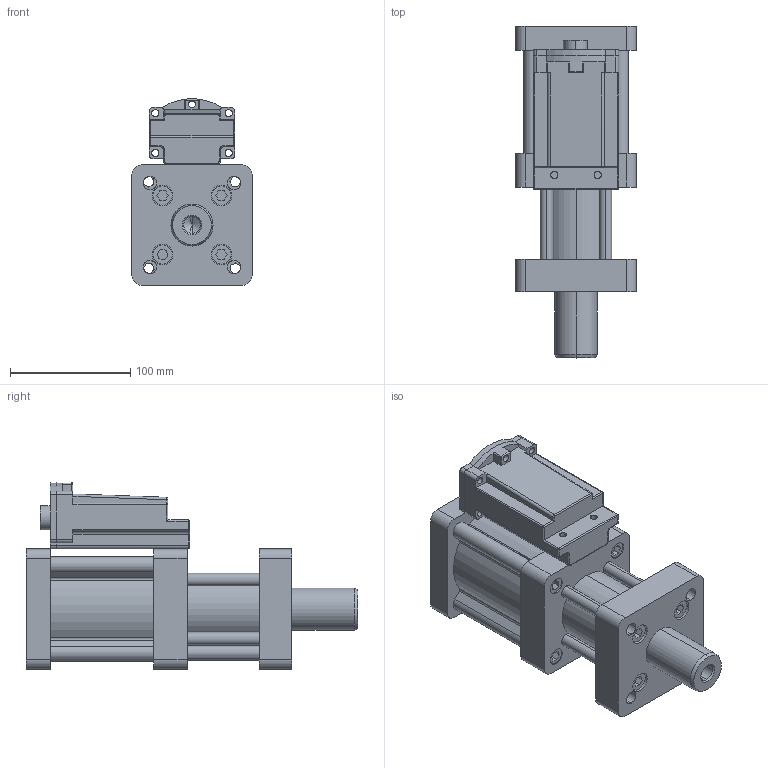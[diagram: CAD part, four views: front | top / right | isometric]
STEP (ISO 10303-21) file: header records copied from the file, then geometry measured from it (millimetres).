
FILE_DESCRIPTION (( 'STEP AP203' ), '1' );
FILE_NAME ('MPTC-50-5-1T.STEP', '2016-03-15T07:57:57', ( 'WIN' ), ( '' ), 'SwSTEP 2.0', 'SolidWorks 2014', '' );
FILE_SCHEMA (( 'CONFIG_CONTROL_DESIGN' ));
Length unit declared in the file: millimetre
Products named in the file (1): MPTC-50-5-1T
Bounding box: 100 x 276 x 154.97 mm (x, y, z)
Surface area: 259000.2 mm2 (no closed solid volume)
Topology: 0 solids, 6 shells, 534 faces, 1316 edges, 816 vertices
Faces by surface type: plane 282, cylinder 213, cone 24, sphere 8, torus 5, bspline 2
Entity records: 16190 total; most frequent: CARTESIAN_POINT 3114, DIRECTION 2867, ORIENTED_EDGE 2577, EDGE_CURVE 1300, AXIS2_PLACEMENT_3D 1061, VERTEX_POINT 816, VECTOR 745, LINE 745
